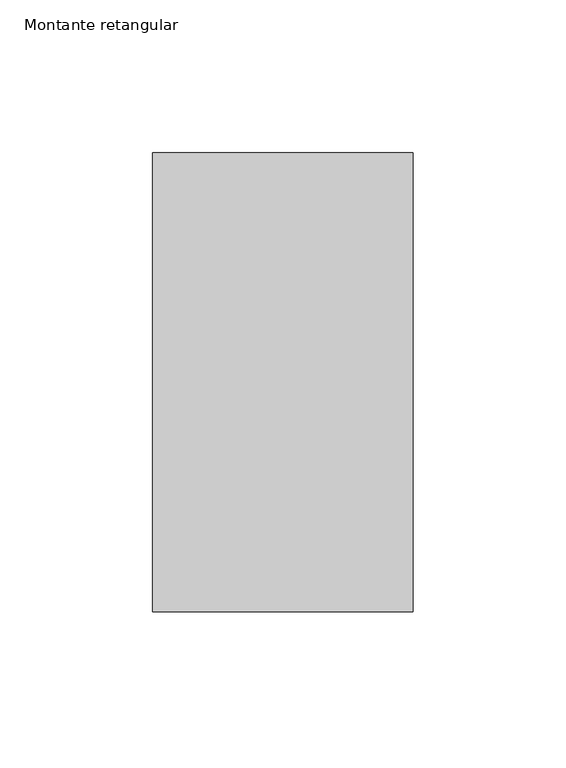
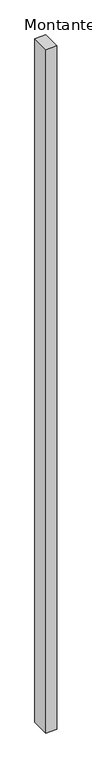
"""IFC4 building model written with IfcOpenShell, lengths in millimetres: member geometry, Montante retangular : terça."""

from ifc_helpers import new_model, si_unit, frame, origin, place, context, project, spatial, polyline, outline, extrude, source, transform, mapped, element, save


def montante_retangular_dfbe916e(model_context):
    return source(origin(), model_context, "Body", "SweptSolid", [
        extrude(outline(polyline([(10.0, 75.0), (10.0, -75.0), (-75.0, -75.0), (-75.0, 75.0), (10.0, 75.0)])), frame((0.0, 0.0, -5650.0), z_axis=(0.0, 0.0, 1.0), x_axis=(1.0, 0.0, 0.0)), (0.0, 0.0, 1.0), 5650.0),
    ])


if __name__ == "__main__":
    model = new_model("IFC4")
    model_context = context("Model", 3, world=origin())
    ifc_project = project(units=[si_unit("LENGTHUNIT", "METRE", prefix="MILLI")], contexts=[model_context])
    site = spatial("IfcSite", under=ifc_project)
    building = spatial("IfcBuilding", under=site)
    placement = place(None, origin())
    montante_retangular_shape = montante_retangular_dfbe916e(model_context)
    element("IfcMember", 1, ObjectType="Montante retangular : terça", at=placement, inside=building, context=model_context, shape_type="MappedRepresentation", body=[
        mapped(montante_retangular_shape, transform((0.0, 0.0, 0.0), x_axis=(1.0, 0.0, 0.0), y_axis=(0.0, 1.0, 0.0), z_axis=(0.0, 0.0, 1.0))),
    ])
    save(model, "model.ifc")
